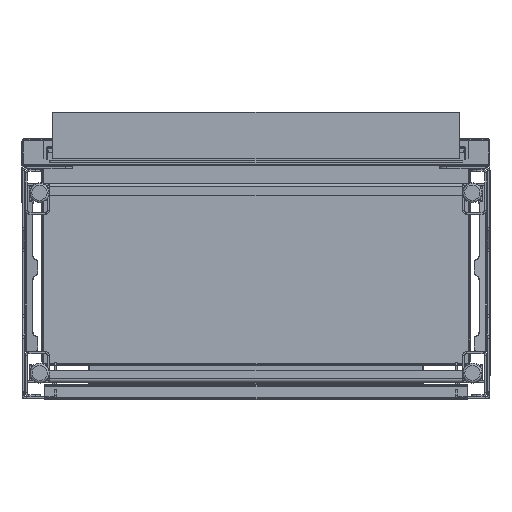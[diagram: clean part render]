
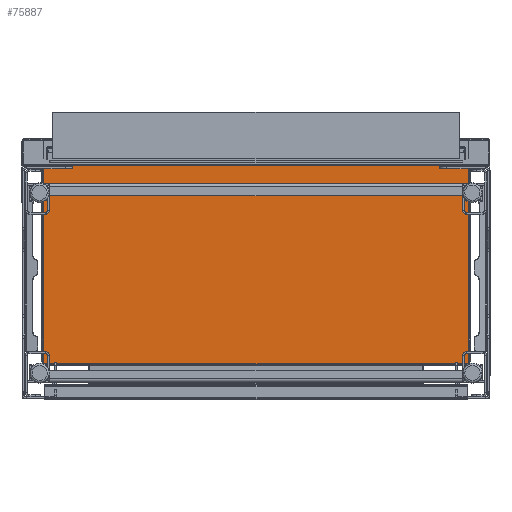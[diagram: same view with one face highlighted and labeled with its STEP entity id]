
A CAD part, front view. The second image highlights one B-rep face of the part: STEP entity #75887.
In plain terms, the highlighted planar face has unit normal (0, -1, 0).
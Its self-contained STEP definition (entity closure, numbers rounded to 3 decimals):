
#5936 = DIRECTION ( 'NONE',  ( 0., 0., -1. ) ) ;
#6573 = VECTOR ( 'NONE', #11558, 1000. ) ;
#11309 = CARTESIAN_POINT ( 'NONE',  ( 424.2, -87.8, -1.2 ) ) ;
#11558 = DIRECTION ( 'NONE',  ( 1., 0., 0. ) ) ;
#14676 = LINE ( 'NONE', #29834, #74207 ) ;
#20335 = VERTEX_POINT ( 'NONE', #90208 ) ;
#20892 = ORIENTED_EDGE ( 'NONE', *, *, #62770, .T. ) ;
#21543 = EDGE_CURVE ( 'Defeatured_701+Defeatured_7019+Defeatured_705+Defeatured_7032', #62989, #24231, #22957, .T. ) ;
#22442 = CARTESIAN_POINT ( 'NONE',  ( 424.2, -87.8, -1.293 ) ) ;
#22957 = LINE ( 'NONE', #22442, #59250 ) ;
#24231 = VERTEX_POINT ( 'NONE', #31324 ) ;
#26471 = EDGE_CURVE ( 'Defeatured_701+Defeatured_7032+Defeatured_7019+Defeatured_7028', #24231, #20335, #14676, .T. ) ;
#26820 = CARTESIAN_POINT ( 'NONE',  ( 0., -87.8, 196.5 ) ) ;
#29834 = CARTESIAN_POINT ( 'NONE',  ( 424.293, -87.8, 394.2 ) ) ;
#29920 = DIRECTION ( 'NONE',  ( 0., -1., 0. ) ) ;
#31324 = CARTESIAN_POINT ( 'NONE',  ( 424.2, -87.8, 394.2 ) ) ;
#38190 = ORIENTED_EDGE ( 'NONE', *, *, #26471, .T. ) ;
#40188 = VECTOR ( 'NONE', #75328, 1000. ) ;
#44865 = CARTESIAN_POINT ( 'NONE',  ( -424.2, -87.8, -1.2 ) ) ;
#52776 = CARTESIAN_POINT ( 'NONE',  ( -424.293, -87.8, -1.2 ) ) ;
#59250 = VECTOR ( 'NONE', #102867, 1000. ) ;
#62770 = EDGE_CURVE ( 'Defeatured_701+Defeatured_705+Defeatured_7028+Defeatured_7019', #92179, #62989, #99313, .T. ) ;
#62877 = ORIENTED_EDGE ( 'NONE', *, *, #21543, .T. ) ;
#62989 = VERTEX_POINT ( 'NONE', #11309 ) ;
#66525 = PLANE ( 'NONE',  #72448 ) ;
#66771 = ORIENTED_EDGE ( 'NONE', *, *, #97250, .T. ) ;
#67474 = LINE ( 'NONE', #97274, #40188 ) ;
#72448 = AXIS2_PLACEMENT_3D ( 'NONE', #26820, #29920, #5936 ) ;
#74207 = VECTOR ( 'NONE', #86742, 1000. ) ;
#75328 = DIRECTION ( 'NONE',  ( 0., 0., -1. ) ) ;
#75887 = ADVANCED_FACE ( 'Defeatured_701', ( #88108 ), #66525, .T. ) ;
#77096 = EDGE_LOOP ( 'NONE', ( #20892, #62877, #38190, #66771 ) ) ;
#86742 = DIRECTION ( 'NONE',  ( -1., 0., 0. ) ) ;
#88108 = FACE_OUTER_BOUND ( 'NONE', #77096, .T. ) ;
#90208 = CARTESIAN_POINT ( 'NONE',  ( -424.2, -87.8, 394.2 ) ) ;
#92179 = VERTEX_POINT ( 'NONE', #44865 ) ;
#97250 = EDGE_CURVE ( 'Defeatured_701+Defeatured_7028+Defeatured_7032+Defeatured_705', #20335, #92179, #67474, .T. ) ;
#97274 = CARTESIAN_POINT ( 'NONE',  ( -424.2, -87.8, 394.293 ) ) ;
#99313 = LINE ( 'NONE', #52776, #6573 ) ;
#102867 = DIRECTION ( 'NONE',  ( 0., 0., 1. ) ) ;
